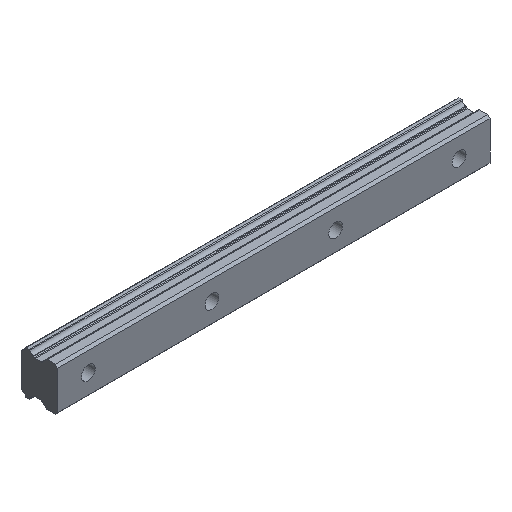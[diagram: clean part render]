
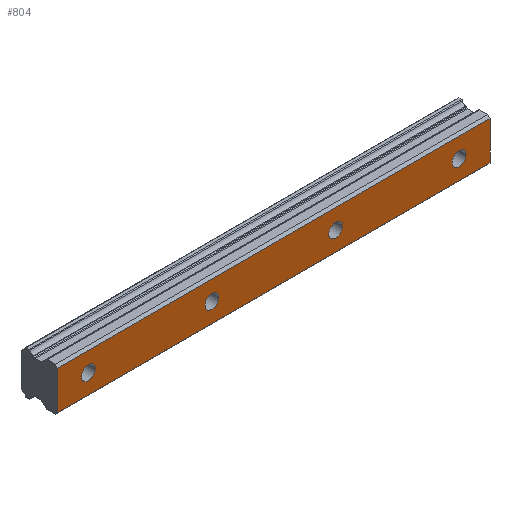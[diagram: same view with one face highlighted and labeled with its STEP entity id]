
A CAD part, isometric view. The second image highlights one B-rep face of the part: STEP entity #804.
In plain terms, the highlighted planar face has unit normal (0, -1, 0).
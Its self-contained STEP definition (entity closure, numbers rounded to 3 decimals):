
#27=PLANE('',#889);
#72=LINE('',#1320,#132);
#73=LINE('',#1330,#133);
#74=LINE('',#1332,#134);
#75=LINE('',#1334,#135);
#132=VECTOR('',#1065,1000.);
#133=VECTOR('',#1076,1000.);
#134=VECTOR('',#1077,1000.);
#135=VECTOR('',#1078,1000.);
#236=ORIENTED_EDGE('',*,*,#443,.F.);
#237=ORIENTED_EDGE('',*,*,#444,.F.);
#238=ORIENTED_EDGE('',*,*,#445,.F.);
#239=ORIENTED_EDGE('',*,*,#446,.F.);
#240=ORIENTED_EDGE('',*,*,#447,.T.);
#241=ORIENTED_EDGE('',*,*,#442,.F.);
#242=ORIENTED_EDGE('',*,*,#448,.F.);
#243=ORIENTED_EDGE('',*,*,#449,.T.);
#442=EDGE_CURVE('',#537,#536,#72,.T.);
#443=EDGE_CURVE('',#538,#538,#602,.T.);
#444=EDGE_CURVE('',#539,#539,#603,.T.);
#445=EDGE_CURVE('',#540,#540,#604,.T.);
#446=EDGE_CURVE('',#541,#541,#605,.T.);
#447=EDGE_CURVE('',#542,#536,#73,.T.);
#448=EDGE_CURVE('',#543,#537,#74,.T.);
#449=EDGE_CURVE('',#543,#542,#75,.T.);
#536=VERTEX_POINT('',#1317);
#537=VERTEX_POINT('',#1319);
#538=VERTEX_POINT('',#1323);
#539=VERTEX_POINT('',#1325);
#540=VERTEX_POINT('',#1327);
#541=VERTEX_POINT('',#1329);
#542=VERTEX_POINT('',#1331);
#543=VERTEX_POINT('',#1333);
#602=CIRCLE('',#890,4.5);
#603=CIRCLE('',#891,4.5);
#604=CIRCLE('',#892,4.5);
#605=CIRCLE('',#893,4.5);
#650=EDGE_LOOP('',(#236));
#651=EDGE_LOOP('',(#237));
#652=EDGE_LOOP('',(#238));
#653=EDGE_LOOP('',(#239));
#654=EDGE_LOOP('',(#240,#241,#242,#243));
#716=FACE_BOUND('',#650,.T.);
#717=FACE_BOUND('',#651,.T.);
#718=FACE_BOUND('',#652,.T.);
#719=FACE_BOUND('',#653,.T.);
#720=FACE_BOUND('',#654,.T.);
#804=ADVANCED_FACE('',(#716,#717,#718,#719,#720),#27,.F.);
#889=AXIS2_PLACEMENT_3D('',#1321,#1066,#1067);
#890=AXIS2_PLACEMENT_3D('',#1322,#1068,#1069);
#891=AXIS2_PLACEMENT_3D('',#1324,#1070,#1071);
#892=AXIS2_PLACEMENT_3D('',#1326,#1072,#1073);
#893=AXIS2_PLACEMENT_3D('',#1328,#1074,#1075);
#1065=DIRECTION('',(-1.,0.,0.));
#1066=DIRECTION('',(0.,1.,0.));
#1067=DIRECTION('',(0.,0.,1.));
#1068=DIRECTION('',(0.,-1.,0.));
#1069=DIRECTION('',(0.,0.,-1.));
#1070=DIRECTION('',(0.,-1.,0.));
#1071=DIRECTION('',(0.,0.,-1.));
#1072=DIRECTION('',(0.,-1.,0.));
#1073=DIRECTION('',(0.,0.,-1.));
#1074=DIRECTION('',(0.,-1.,0.));
#1075=DIRECTION('',(0.,0.,-1.));
#1076=DIRECTION('',(0.,0.,-1.));
#1077=DIRECTION('',(0.,0.,-1.));
#1078=DIRECTION('',(-1.,0.,0.));
#1317=CARTESIAN_POINT('',(-20.,0.,-12.5));
#1319=CARTESIAN_POINT('',(260.,0.,-12.5));
#1320=CARTESIAN_POINT('',(260.,0.,-12.5));
#1321=CARTESIAN_POINT('',(260.,0.,12.5));
#1322=CARTESIAN_POINT('',(80.,0.,0.));
#1323=CARTESIAN_POINT('',(80.,0.,-4.5));
#1324=CARTESIAN_POINT('',(160.,0.,0.));
#1325=CARTESIAN_POINT('',(160.,0.,-4.5));
#1326=CARTESIAN_POINT('',(240.,0.,0.));
#1327=CARTESIAN_POINT('',(240.,0.,-4.5));
#1328=CARTESIAN_POINT('',(0.,0.,0.));
#1329=CARTESIAN_POINT('',(0.,0.,-4.5));
#1330=CARTESIAN_POINT('',(-20.,0.,12.5));
#1331=CARTESIAN_POINT('',(-20.,0.,12.5));
#1332=CARTESIAN_POINT('',(260.,0.,12.5));
#1333=CARTESIAN_POINT('',(260.,0.,12.5));
#1334=CARTESIAN_POINT('',(260.,0.,12.5));
